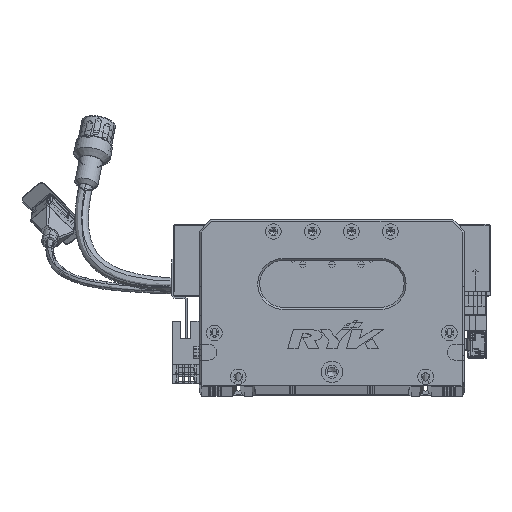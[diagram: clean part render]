
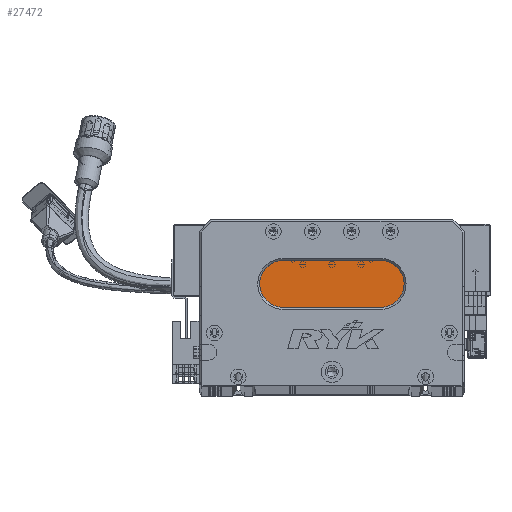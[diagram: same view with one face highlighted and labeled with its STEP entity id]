
A CAD part, top view. The second image highlights one B-rep face of the part: STEP entity #27472.
In plain terms, the highlighted planar face has unit normal (0, 0, 1) as drawn and (0, 0, -1) by its records, which use the part's own axes.
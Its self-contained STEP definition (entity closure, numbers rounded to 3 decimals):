
#301 = LINE ( 'NONE', #11349, #44702 ) ;
#417 = VERTEX_POINT ( 'NONE', #103591 ) ;
#627 = EDGE_CURVE ( 'NONE', #417, #1007, #65857, .T. ) ;
#1007 = VERTEX_POINT ( 'NONE', #1287 ) ;
#1287 = CARTESIAN_POINT ( 'NONE',  ( 43., 64., 13. ) ) ;
#1486 = CARTESIAN_POINT ( 'NONE',  ( 93., 52., 13. ) ) ;
#2836 = DIRECTION ( 'NONE',  ( -1., 0., 0. ) ) ;
#8184 = CARTESIAN_POINT ( 'NONE',  ( 93., 52., 13. ) ) ;
#11349 = CARTESIAN_POINT ( 'NONE',  ( 93., 40., 13. ) ) ;
#14093 = CARTESIAN_POINT ( 'NONE',  ( 43., 40., 13. ) ) ;
#18111 = AXIS2_PLACEMENT_3D ( 'NONE', #1486, #75135, #96284 ) ;
#25795 = CARTESIAN_POINT ( 'NONE',  ( 43., 52., 13. ) ) ;
#27472 = ADVANCED_FACE ( 'NONE', ( #64319 ), #87080, .T. ) ;
#33155 = CARTESIAN_POINT ( 'NONE',  ( 43., 52., 13. ) ) ;
#33721 = ORIENTED_EDGE ( 'NONE', *, *, #136476, .T. ) ;
#40204 = DIRECTION ( 'NONE',  ( 1., 0., 0. ) ) ;
#44702 = VECTOR ( 'NONE', #95590, 1000. ) ;
#45139 = DIRECTION ( 'NONE',  ( 0., 0., -1. ) ) ;
#45616 = VERTEX_POINT ( 'NONE', #14093 ) ;
#48710 = CARTESIAN_POINT ( 'NONE',  ( 93., 40., 13. ) ) ;
#49249 = LINE ( 'NONE', #72878, #67360 ) ;
#51434 = EDGE_CURVE ( 'NONE', #59532, #45616, #301, .T. ) ;
#55909 = AXIS2_PLACEMENT_3D ( 'NONE', #8184, #91997, #113570 ) ;
#57091 = DIRECTION ( 'NONE',  ( 0., 0., -1. ) ) ;
#59532 = VERTEX_POINT ( 'NONE', #48710 ) ;
#63182 = VERTEX_POINT ( 'NONE', #128558 ) ;
#64319 = FACE_OUTER_BOUND ( 'NONE', #88974, .T. ) ;
#65857 = CIRCLE ( 'NONE', #117017, 12. ) ;
#67360 = VECTOR ( 'NONE', #40204, 1000. ) ;
#67803 = AXIS2_PLACEMENT_3D ( 'NONE', #25795, #45139, #2836 ) ;
#67894 = ORIENTED_EDGE ( 'NONE', *, *, #89618, .T. ) ;
#72878 = CARTESIAN_POINT ( 'NONE',  ( 93., 64., 13. ) ) ;
#75135 = DIRECTION ( 'NONE',  ( 0., 0., -1. ) ) ;
#83155 = EDGE_CURVE ( 'NONE', #45616, #417, #113355, .T. ) ;
#87080 = PLANE ( 'NONE',  #18111 ) ;
#88974 = EDGE_LOOP ( 'NONE', ( #67894, #128476, #100721, #99959, #33721 ) ) ;
#89618 = EDGE_CURVE ( 'NONE', #63182, #59532, #110958, .T. ) ;
#91997 = DIRECTION ( 'NONE',  ( 0., 0., -1. ) ) ;
#95590 = DIRECTION ( 'NONE',  ( -1., 0., 0. ) ) ;
#96206 = DIRECTION ( 'NONE',  ( -1., 0., 0. ) ) ;
#96284 = DIRECTION ( 'NONE',  ( -1., 0., 0. ) ) ;
#99959 = ORIENTED_EDGE ( 'NONE', *, *, #627, .T. ) ;
#100721 = ORIENTED_EDGE ( 'NONE', *, *, #83155, .T. ) ;
#103591 = CARTESIAN_POINT ( 'NONE',  ( 31., 52., 13. ) ) ;
#110958 = CIRCLE ( 'NONE', #55909, 12. ) ;
#113355 = CIRCLE ( 'NONE', #67803, 12. ) ;
#113570 = DIRECTION ( 'NONE',  ( -1., 0., 0. ) ) ;
#117017 = AXIS2_PLACEMENT_3D ( 'NONE', #33155, #57091, #96206 ) ;
#128476 = ORIENTED_EDGE ( 'NONE', *, *, #51434, .T. ) ;
#128558 = CARTESIAN_POINT ( 'NONE',  ( 93., 64., 13. ) ) ;
#136476 = EDGE_CURVE ( 'NONE', #1007, #63182, #49249, .T. ) ;
